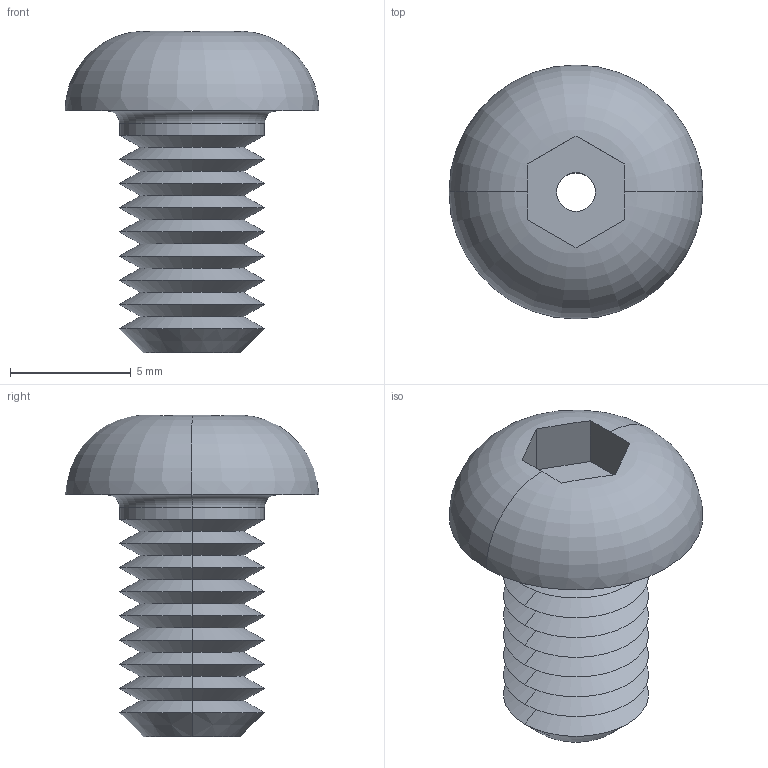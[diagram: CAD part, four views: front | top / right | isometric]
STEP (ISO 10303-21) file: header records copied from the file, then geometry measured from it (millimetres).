
FILE_DESCRIPTION (( 'STEP AP203' ), '1' );
FILE_NAME ('P0094.060-010-A2.step', '2019-07-12T16:54:45', ( '' ), ( '' ), 'SwSTEP 2.0', 'SolidWorks 2017', '' );
FILE_SCHEMA (( 'CONFIG_CONTROL_DESIGN' ));
Length unit declared in the file: millimetre
Products named in the file (1): P0094.060-010-A2
Bounding box: 10.5 x 10.5 x 13.3 mm (x, y, z)
Volume: 384.5 mm3; surface area: 591.1 mm2
Topology: 1 solids, 1 shells, 51 faces, 108 edges, 60 vertices
Faces by surface type: cone 34, plane 9, cylinder 4, torus 4
Entity records: 1445 total; most frequent: CARTESIAN_POINT 256, DIRECTION 254, ORIENTED_EDGE 216, EDGE_CURVE 108, AXIS2_PLACEMENT_3D 102, VERTEX_POINT 60, EDGE_LOOP 54, FACE_OUTER_BOUND 51
